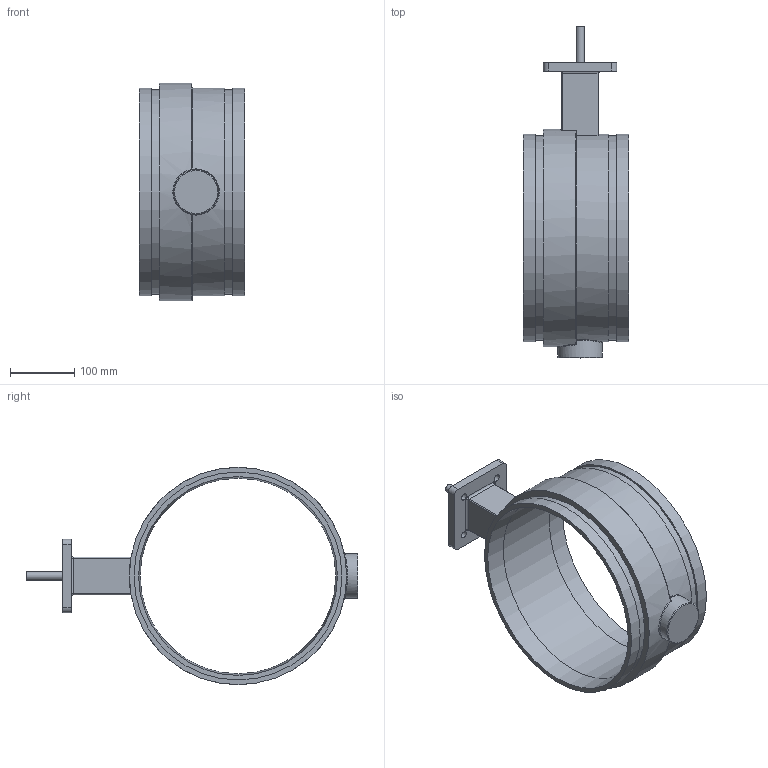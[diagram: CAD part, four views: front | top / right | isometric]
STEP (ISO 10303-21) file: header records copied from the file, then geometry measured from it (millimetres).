
FILE_DESCRIPTION(/* description */ ('Vic Series 461 Vic-300 MasterSeal SS Butterfly Valve','CAx-IF Rec.Pracs.---Representation and Presentation of Product Manufacturing Information (PMI)---4.0---2014-10-13'),/* implementation_level */ '2;1');
FILE_NAME(/* name */ 'C:\Users\kkamble\AppData\Roaming\Autodesk\ApplicationPlugins\Back Up\Victaulic_SS-OGS_Valve Butterfly Vic-300 Masterseal Bare_Series 461 (OGS)\Victaulic_SS-OGS_Valve Butterfly Vic-300 Masterseal Bare_Series 461 (OGS)_12 (300).stp',/* time_stamp */ '2020-09-02T14:48:44+05:00',/* author */ ('mchristi'),/* organization */ ('Victaulic'),/* preprocessor_version */ 'ST-DEVELOPER v17.2',/* originating_system */ 'Autodesk Inventor 2019',/* authorisation */ '');
FILE_SCHEMA (('AP242_MANAGED_MODEL_BASED_3D_ENGINEERING_MIM_LF { 1 0 10303 442 1 1 4 }'));
Length unit declared in the file: inch
Products named in the file (1): 461-12.0
Bounding box: 165.1 x 517.14 x 338.58 mm (x, y, z)
Volume: 2374083 mm3; surface area: 424291.9 mm2
Topology: 1 solids, 1 shells, 84 faces, 204 edges, 127 vertices
Faces by surface type: cylinder 34, plane 21, bspline 14, torus 11, sphere 2, cone 2
Full cylindrical faces by diameter (mm): 10.922 x4, 12.7 x1, 69.85 x1, 70.104 x1, 304.8 x1, 318.287 x2, 323.85 x3, 338.582 x1
Entity records: 3224 total; most frequent: CARTESIAN_POINT 1047, DIRECTION 447, ORIENTED_EDGE 406, EDGE_CURVE 203, AXIS2_PLACEMENT_3D 191, VERTEX_POINT 128, CIRCLE 107, EDGE_LOOP 101
